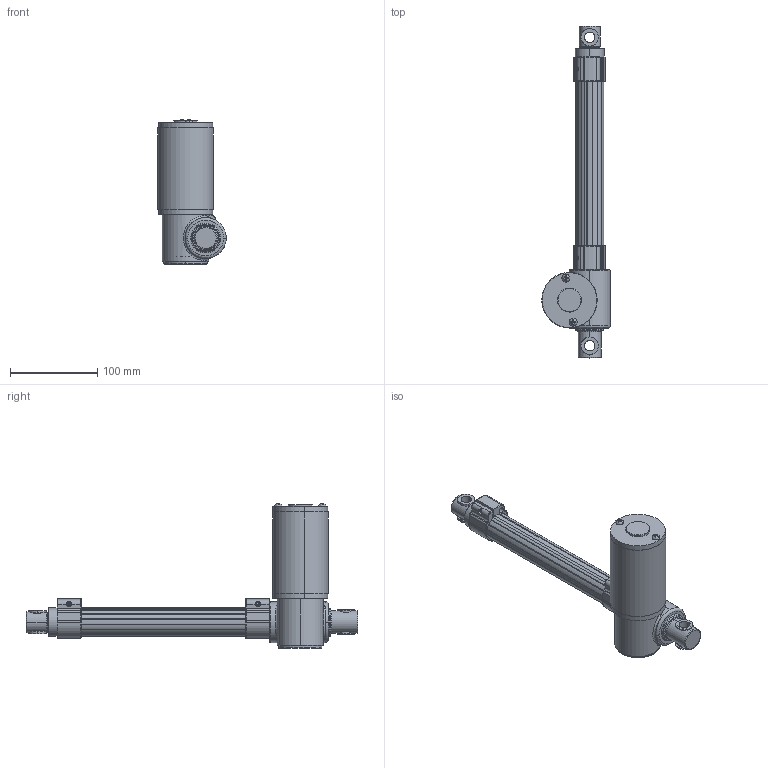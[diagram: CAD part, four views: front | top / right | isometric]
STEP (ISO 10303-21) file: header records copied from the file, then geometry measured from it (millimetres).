
FILE_DESCRIPTION (( 'STEP AP203' ), '1' );
FILE_NAME ('LD40R.STEP', '2018-07-17T00:45:41', ( '' ), ( '' ), 'SwSTEP 2.0', 'SolidWorks 2012', '' );
FILE_SCHEMA (( 'CONFIG_CONTROL_DESIGN' ));
Length unit declared in the file: millimetre
Products named in the file (3): LD40R; 2; 2 (R)
Assembly tree (2 placements, depth 2):
  LD40R
    2 (R)
    2
Bounding box: 78.38 x 380 x 165.43 mm (x, y, z)
Surface area: 130695.7 mm2 (no closed solid volume)
Topology: 0 solids, 16 shells, 326 faces, 949 edges, 636 vertices
Faces by surface type: cylinder 144, plane 92, bspline 66, cone 24
Entity records: 14784 total; most frequent: CARTESIAN_POINT 6311, DIRECTION 1687, ORIENTED_EDGE 1668, EDGE_CURVE 949, AXIS2_PLACEMENT_3D 665, VERTEX_POINT 636, CIRCLE 400, VECTOR 357
